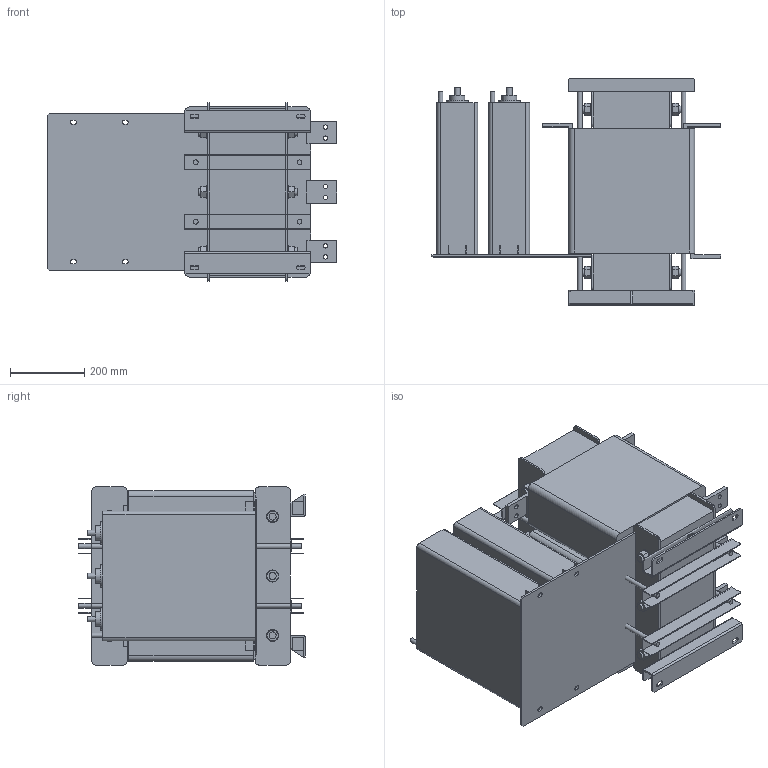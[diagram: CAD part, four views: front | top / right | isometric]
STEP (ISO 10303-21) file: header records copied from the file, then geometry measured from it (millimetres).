
FILE_DESCRIPTION(/* description */ (''),/* implementation_level */ '2;1');
FILE_NAME(/* name */ 'Sin-T6-800.stp',/* time_stamp */ '2025-02-25T11:06:44+04:00',/* author */ ('Лео'),/* organization */ (''),/* preprocessor_version */ 'ST-DEVELOPER v19.2',/* originating_system */ 'Autodesk Inventor 2024',/* authorisation */ '');
FILE_SCHEMA (('AUTOMOTIVE_DESIGN { 1 0 10303 214 3 1 1 }'));
Length unit declared in the file: millimetre
Products named in the file (1): Sin-T6-800
Bounding box: 780 x 610 x 480 mm (x, y, z)
Volume: 101397283.6 mm3; surface area: 3939057.7 mm2
Topology: 26 solids, 26 shells, 647 faces, 1478 edges, 928 vertices
Faces by surface type: plane 501, cylinder 146
Full cylindrical faces by diameter (mm): 12 x20, 13 x12, 15 x6, 19 x12, 32.562 x12, 40 x6, 60 x6
Entity records: 18078 total; most frequent: DIRECTION 3138, CARTESIAN_POINT 3054, ORIENTED_EDGE 2956, EDGE_CURVE 1478, LINE 1114, VECTOR 1114, AXIS2_PLACEMENT_3D 1012, VERTEX_POINT 928
